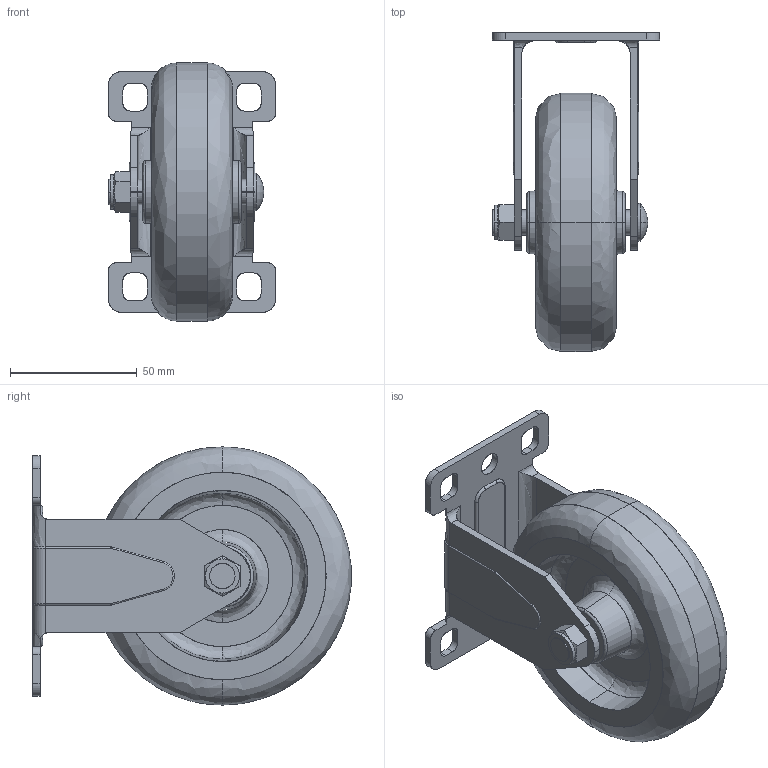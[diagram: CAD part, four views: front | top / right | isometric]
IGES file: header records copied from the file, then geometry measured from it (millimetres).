
Start section: SolidWorks IGES file using analytic representation for surfaces
Global section: file name: C:\Users\KHJ\Desktop\3D\LM5040-PU.IGS; native system: SolidWorks 2012; preprocessor: SolidWorks 2012; author: KHJ; date: 121128.000751; units: millimetre
Bounding box: 66 x 126 x 102 mm (x, y, z)
Surface area: 59735.7 mm2 (no closed solid volume)
Topology: 0 solids, 0 shells, 185 faces, 2860 edges, 2858 vertices
Faces by surface type: revolution 94, bspline 91
